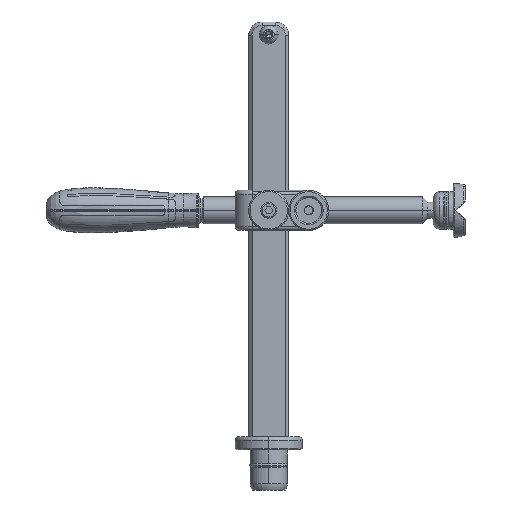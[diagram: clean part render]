
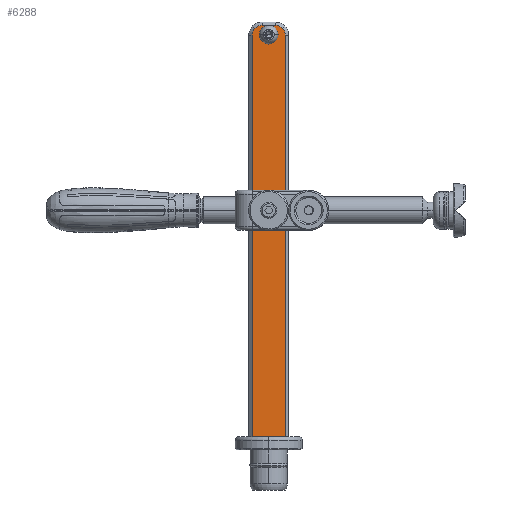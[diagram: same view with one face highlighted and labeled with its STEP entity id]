
A CAD part, left-side view. The second image highlights one B-rep face of the part: STEP entity #6288.
In plain terms, the highlighted planar face has unit normal (-1, 0, 0).
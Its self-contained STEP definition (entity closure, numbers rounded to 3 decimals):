
#6288=ADVANCED_FACE('',(#14130,#14131),#14132,.T.);
#14130=FACE_BOUND('',#43601,.T.);
#14131=FACE_OUTER_BOUND('',#43602,.T.);
#14132=PLANE('',#43603);
#43601=EDGE_LOOP('',(#80255,#80256));
#43602=EDGE_LOOP('',(#80257,#80258,#80259,#80260,#80261,#80262,#80263,#80264));
#43603=AXIS2_PLACEMENT_3D('',#80265,#80266,#80267);
#80255=ORIENTED_EDGE('',*,*,#98313,.T.);
#80256=ORIENTED_EDGE('',*,*,#97782,.T.);
#80257=ORIENTED_EDGE('',*,*,#97711,.F.);
#80258=ORIENTED_EDGE('',*,*,#93586,.F.);
#80259=ORIENTED_EDGE('',*,*,#94947,.F.);
#80260=ORIENTED_EDGE('',*,*,#98314,.F.);
#80261=ORIENTED_EDGE('',*,*,#98110,.F.);
#80262=ORIENTED_EDGE('',*,*,#98315,.F.);
#80263=ORIENTED_EDGE('',*,*,#98316,.F.);
#80264=ORIENTED_EDGE('',*,*,#98317,.F.);
#80265=CARTESIAN_POINT('',(65.648,-54.954,-184.127));
#80266=DIRECTION('',(-1.0,0.,-0.0));
#80267=DIRECTION('',(0.0,0.0,-1.0));
#93586=EDGE_CURVE('',#106433,#106436,#106437,.T.);
#94947=EDGE_CURVE('',#108665,#106433,#108667,.T.);
#97711=EDGE_CURVE('',#106436,#112723,#112725,.T.);
#97782=EDGE_CURVE('',#112811,#112813,#112815,.T.);
#98110=EDGE_CURVE('',#113236,#113238,#113239,.T.);
#98313=EDGE_CURVE('',#112813,#112811,#113511,.T.);
#98314=EDGE_CURVE('',#113238,#108665,#113512,.T.);
#98315=EDGE_CURVE('',#113513,#113236,#113514,.T.);
#98316=EDGE_CURVE('',#113515,#113513,#113516,.T.);
#98317=EDGE_CURVE('',#112723,#113515,#113517,.T.);
#106433=VERTEX_POINT('',#135449);
#106436=VERTEX_POINT('',#135453);
#106437=CIRCLE('',#135454,7.5);
#108665=VERTEX_POINT('',#145361);
#108667=CIRCLE('',#145364,7.5);
#112723=VERTEX_POINT('',#162884);
#112725=LINE('',#162887,#162888);
#112811=VERTEX_POINT('',#163265);
#112813=VERTEX_POINT('',#163268);
#112815=CIRCLE('',#163271,4.0);
#113236=VERTEX_POINT('',#165141);
#113238=VERTEX_POINT('',#165144);
#113239=CIRCLE('',#165145,7.5);
#113511=CIRCLE('',#166398,4.0);
#113512=LINE('',#166399,#166400);
#113513=VERTEX_POINT('',#166401);
#113514=CIRCLE('',#166402,7.5);
#113515=VERTEX_POINT('',#166403);
#113516=LINE('',#166404,#166405);
#113517=LINE('',#166406,#166407);
#135449=CARTESIAN_POINT('',(65.648,-80.257,121.176));
#135453=CARTESIAN_POINT('',(65.648,-82.454,115.873));
#135454=AXIS2_PLACEMENT_3D('',#186822,#186823,#186824);
#145361=CARTESIAN_POINT('',(65.648,-74.954,123.373));
#145364=AXIS2_PLACEMENT_3D('',#187623,#187624,#187625);
#162884=CARTESIAN_POINT('',(65.648,-82.454,-184.127));
#162887=CARTESIAN_POINT('',(65.648,-82.454,-184.127));
#162888=VECTOR('',#189462,1.0);
#163265=CARTESIAN_POINT('',(65.648,-73.954,116.373));
#163268=CARTESIAN_POINT('',(65.648,-65.954,116.373));
#163271=AXIS2_PLACEMENT_3D('',#189501,#189502,#189503);
#165141=CARTESIAN_POINT('',(65.648,-59.651,121.176));
#165144=CARTESIAN_POINT('',(65.648,-64.954,123.373));
#165145=AXIS2_PLACEMENT_3D('',#189714,#189715,#189716);
#166398=AXIS2_PLACEMENT_3D('',#189824,#189825,#189826);
#166399=CARTESIAN_POINT('',(65.648,-69.954,123.373));
#166400=VECTOR('',#189827,1.0);
#166401=CARTESIAN_POINT('',(65.648,-57.454,115.873));
#166402=AXIS2_PLACEMENT_3D('',#189828,#189829,#189830);
#166403=CARTESIAN_POINT('',(65.648,-57.454,-184.127));
#166404=CARTESIAN_POINT('',(65.648,-57.454,-184.127));
#166405=VECTOR('',#189831,1.0);
#166406=CARTESIAN_POINT('',(65.648,-84.954,-184.127));
#166407=VECTOR('',#189832,1.0);
#186822=CARTESIAN_POINT('',(65.648,-74.954,115.873));
#186823=DIRECTION('',(1.0,0.,0.0));
#186824=DIRECTION('',(0.,-0.707,0.707));
#187623=CARTESIAN_POINT('',(65.648,-74.954,115.873));
#187624=DIRECTION('',(1.0,0.,0.0));
#187625=DIRECTION('',(0.,-0.707,0.707));
#189462=DIRECTION('',(0.0,0.0,-1.0));
#189501=CARTESIAN_POINT('',(65.648,-69.954,116.373));
#189502=DIRECTION('',(1.0,0.,0.0));
#189503=DIRECTION('',(0.,-1.0,0.0));
#189714=CARTESIAN_POINT('',(65.648,-64.954,115.873));
#189715=DIRECTION('',(1.0,0.,0.0));
#189716=DIRECTION('',(0.,0.707,0.707));
#189824=CARTESIAN_POINT('',(65.648,-69.954,116.373));
#189825=DIRECTION('',(1.0,0.,0.0));
#189826=DIRECTION('',(0.,-1.0,0.0));
#189827=DIRECTION('',(0.,-1.0,0.0));
#189828=CARTESIAN_POINT('',(65.648,-64.954,115.873));
#189829=DIRECTION('',(1.0,0.,0.0));
#189830=DIRECTION('',(0.,0.707,0.707));
#189831=DIRECTION('',(0.0,0.0,1.0));
#189832=DIRECTION('',(0.,1.0,0.0));
